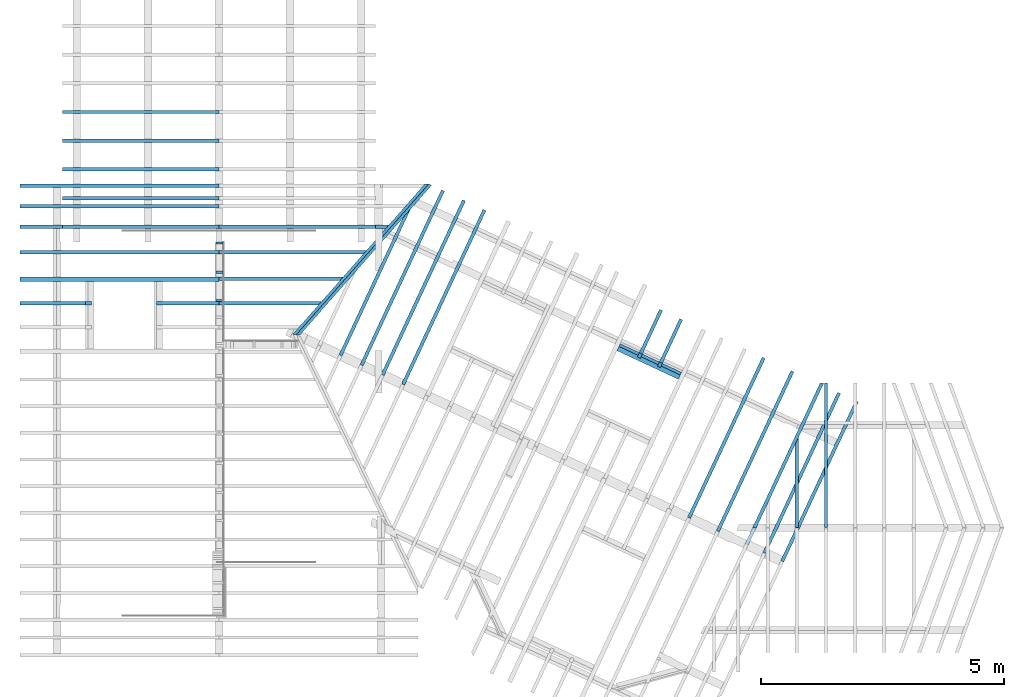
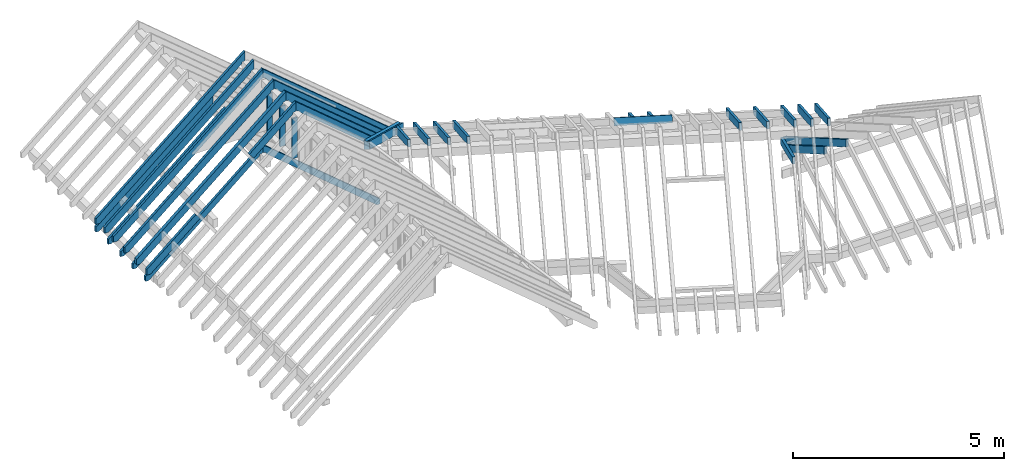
# One storey, part 5 of 11: 36 members.
"""IFC2X3 building model written with IfcOpenShell, lengths in metres."""

from ifc_helpers import new_model, si_unit, direction, frame, origin_with_axes, place, context, subcontext, project, spatial, faceted_brep, material, element, save


model = new_model("IFC2X3")

# Units and contexts
model_context = context("Model", 3, precision=1e-06, world=origin_with_axes(), true_north=direction((0.0, 1.0, 0.0)))
body_context = subcontext(model_context, "Body", "Model", "MODEL_VIEW")
ifc_project = project(units=[si_unit("LENGTHUNIT", "METRE"), si_unit("AREAUNIT", "SQUARE_METRE"), si_unit("VOLUMEUNIT", "CUBIC_METRE"), si_unit("PLANEANGLEUNIT", "RADIAN")], contexts=[model_context])

# Site, building, storey
site_placement = place(None, origin_with_axes())
site = spatial("IfcSite", under=ifc_project, at=site_placement, CompositionType="ELEMENT")
building_placement = place(site_placement, origin_with_axes())
building = spatial("IfcBuilding", under=site, at=building_placement, Name="Building 1", CompositionType="ELEMENT")
storey_placement = place(building_placement, origin_with_axes())
storey = spatial("IfcBuildingStorey", under=building, at=storey_placement, Name="Comble et couverture", CompositionType="ELEMENT", Elevation=0.0)

# Members
ifc_material_1 = material(Name="NH II")
member_1_placement = place(storey_placement, frame((3.294711, 6.4175905, 7.2275995), z_axis=(0.6427876, 0.0, 0.7660444), x_axis=(0.7660444, 0.0, -0.6427876)))
element("IfcMember", 1, at=member_1_placement, inside=storey, material=ifc_material_1, Name="Chevron", context=body_context, shape_type="Brep", body=[
    faceted_brep([(2.7435538, 0.035, 0.096), (2.663207, -0.035, 0.096), (2.8243141, -0.035, -0.096), (2.9046609, 0.035, -0.096), (0.0, -0.035, 0.096), (0.1611071, -0.035, -0.096), (0.2078259, -0.035, -0.096), (0.2397786, -0.035, -0.0691884), (0.2622762, -0.035, -0.096), (0.0, 0.035, 0.096), (0.2622762, 0.035, -0.096), (0.2397786, 0.035, -0.0691884), (0.2078259, 0.035, -0.096), (0.1611071, 0.035, -0.096)], [[[0, 1, 2, 3]], [[2, 1, 4, 5, 6, 7, 8]], [[1, 0, 9, 4]], [[0, 3, 10, 11, 12, 13, 9]], [[3, 2, 8, 10]], [[12, 11, 7, 6]], [[11, 10, 8, 7]], [[12, 6, 5, 13]], [[4, 9, 13, 5]]]),
])
member_2_placement = place(storey_placement, frame((3.3033887, 7.99, 5.0430385), z_axis=(0.6427876, 0.0, 0.7660444), x_axis=(0.7660444, 0.0, -0.6427876)))
element("IfcMember", 2, at=member_2_placement, inside=storey, material=ifc_material_1, Name="Chevron", context=body_context, shape_type="Brep", body=[
    faceted_brep([(0.0, 0.035, 0.0825), (0.0, -0.035, 0.0825), (4.1925587, -0.035, 0.0825), (4.1925587, 0.035, 0.0825), (0.2397267, -0.035, -0.0825), (0.2397267, 0.035, -0.0825), (4.2137207, 0.035, -0.0825), (4.2137207, -0.035, -0.0825), (0.1852763, -0.035, -0.0825), (0.2172291, -0.035, -0.0556884), (4.282549, -0.035, -0.0247462), (0.1384514, -0.035, -0.0825), (0.2172291, 0.035, -0.0556884), (0.1852763, 0.035, -0.0825), (0.1384514, 0.035, -0.0825), (4.282549, 0.035, -0.0247462)], [[[0, 1, 2, 3]], [[4, 5, 6, 7]], [[8, 9, 4, 7, 10, 2, 1, 11]], [[12, 13, 14, 0, 3, 15, 6, 5]], [[13, 12, 9, 8]], [[12, 5, 4, 9]], [[13, 8, 11, 14]], [[0, 14, 11, 1]], [[10, 15, 3, 2]], [[6, 15, 10, 7]]]),
])
member_3_placement = place(storey_placement, frame((14.9022096, 1.0777678, 5.8872838), z_axis=(0.2113091, 0.4531539, 0.8660254), x_axis=(0.3659982, 0.7848856, -0.5)))
element("IfcMember", 3, at=member_3_placement, inside=storey, material=ifc_material_1, Name="Chevron", context=body_context, shape_type="Brep", body=[
    faceted_brep([(0.0, 0.035, 0.096), (0.0, -0.035, 0.096), (4.1838816, -0.035, 0.096), (4.1838816, 0.035, 0.096), (0.2227742, 0.035, -0.096), (0.2045007, 0.035, -0.0643494), (0.1496801, 0.035, -0.096), (0.1108513, 0.035, -0.096), (4.2639363, 0.035, -0.0426587), (4.1715464, 0.035, -0.096), (0.2227742, -0.035, -0.096), (4.1715464, -0.035, -0.096), (0.2045007, -0.035, -0.0643494), (4.2639363, -0.035, -0.0426587), (0.1108513, -0.035, -0.096), (0.1496801, -0.035, -0.096)], [[[0, 1, 2, 3]], [[4, 5, 6, 7, 0, 3, 8, 9]], [[10, 4, 9, 11]], [[12, 10, 11, 13, 2, 1, 14, 15]], [[10, 12, 5, 4]], [[12, 15, 6, 5]], [[6, 15, 14, 7]], [[14, 1, 0, 7]], [[13, 8, 3, 2]], [[8, 13, 11, 9]]]),
])
ifc_material_2 = material(Name="Epicéa C24")
member_4_placement = place(storey_placement, frame((3.3635, 7.6535, 6.7854713), z_axis=(1.0, 0.0, 0.0), x_axis=(0.0, 0.0, -1.0)))
element("IfcMember", 4, at=member_4_placement, inside=storey, material=ifc_material_2, Name="Montant", context=body_context, shape_type="Brep", body=[
    faceted_brep([(1.16, -0.0225, -0.0725), (1.16, 0.0225, -0.0725), (1.16, 0.0225, 0.0725), (1.16, -0.0225, 0.0725), (0.0, 0.0225, -0.0725), (0.0, 0.0225, 0.0725), (0.0, -0.0225, -0.0725), (0.0, -0.0225, 0.0725)], [[[0, 1, 2, 3]], [[2, 1, 4, 5]], [[1, 0, 6, 4]], [[0, 3, 7, 6]], [[3, 2, 5, 7]], [[7, 5, 4, 6]]]),
])
member_5_placement = place(storey_placement, frame((14.3295766, 1.7640094, 4.5601278), z_axis=(0.1959355, 0.420185, 0.8860327), x_axis=(0.3744536, 0.8030183, -0.4636228)))
element("IfcMember", 5, at=member_5_placement, inside=storey, material=ifc_material_1, Name="Chevron", context=body_context, shape_type="Brep", body=[
    faceted_brep([(3.7863754, -0.035, -0.0280447), (3.757454, 0.035, -0.043178), (3.6925467, 0.035, 0.0808667), (3.7214682, -0.035, 0.096), (3.6565055, 0.035, -0.096), (2.8097948, 0.035, -0.096), (2.8062637, 0.035, -0.0892516), (2.7933668, 0.035, -0.096), (0.1884349, 0.035, -0.096), (0.1849037, 0.035, -0.0892516), (0.1720069, 0.035, -0.096), (0.0925467, 0.035, -0.096), (0.0, 0.035, 0.0808666), (3.6565055, -0.035, -0.096), (0.0289215, -0.035, 0.096), (0.1293868, -0.035, -0.096), (0.1720069, -0.035, -0.096), (0.2138252, -0.035, -0.0741183), (0.225275, -0.035, -0.096), (2.7933668, -0.035, -0.096), (2.8351852, -0.035, -0.0741183), (2.8466349, -0.035, -0.096)], [[[0, 1, 2, 3]], [[2, 1, 4, 5, 6, 7, 8, 9, 10, 11, 12]], [[1, 0, 13, 4]], [[3, 2, 12, 14]], [[0, 3, 14, 15, 16, 17, 18, 19, 20, 21, 13]], [[4, 13, 21, 5]], [[7, 6, 20, 19]], [[6, 5, 21, 20]], [[7, 19, 18, 8]], [[11, 15, 14, 12]], [[15, 11, 10, 16]], [[18, 17, 9, 8]], [[17, 16, 10, 9]]]),
])
member_6_placement = place(storey_placement, frame((3.294711, 7.4657952, 7.2275995), z_axis=(0.6427876, 0.0, 0.7660444), x_axis=(0.7660444, 0.0, -0.6427876)))
element("IfcMember", 6, at=member_6_placement, inside=storey, material=ifc_material_1, Name="Chevron", context=body_context, shape_type="Brep", body=[
    faceted_brep([(0.2078259, 0.035, -0.096), (0.2397786, 0.035, -0.0691884), (0.2397786, -0.035, -0.0691884), (0.2078259, -0.035, -0.096), (0.2622762, 0.035, -0.096), (0.2622762, -0.035, -0.096), (4.0274555, -0.035, -0.096), (3.8663484, -0.035, 0.096), (0.0, -0.035, 0.096), (0.1611071, -0.035, -0.096), (4.1078023, 0.035, -0.096), (0.1611071, 0.035, -0.096), (3.9466952, 0.035, 0.096), (0.0, 0.035, 0.096)], [[[0, 1, 2, 3]], [[1, 4, 5, 2]], [[3, 2, 5, 6, 7, 8, 9]], [[5, 4, 10, 6]], [[0, 3, 9, 11]], [[6, 10, 12, 7]], [[1, 0, 11, 13, 12, 10, 4]], [[7, 12, 13, 8]], [[8, 13, 11, 9]]]),
])
member_7_placement = place(storey_placement, frame((14.5356195, 1.2487413, 5.8873141), z_axis=(0.2113091, 0.4531539, 0.8660254), x_axis=(0.3659982, 0.7848856, -0.5)))
element("IfcMember", 7, at=member_7_placement, inside=storey, material=ifc_material_1, Name="Chevron", context=body_context, shape_type="Brep", body=[
    faceted_brep([(0.0, 0.035, 0.096), (0.0, -0.035, 0.096), (4.1838816, -0.035, 0.096), (4.1838816, 0.035, 0.096), (0.2227742, 0.035, -0.096), (0.2045007, 0.035, -0.0643494), (0.1497407, 0.035, -0.096), (0.1108513, 0.035, -0.096), (4.2639363, 0.035, -0.0426587), (4.1715464, 0.035, -0.096), (0.2227742, -0.035, -0.096), (4.1715464, -0.035, -0.096), (0.2045007, -0.035, -0.0643494), (4.2639363, -0.035, -0.0426587), (0.1108513, -0.035, -0.096), (0.1497407, -0.035, -0.096)], [[[0, 1, 2, 3]], [[4, 5, 6, 7, 0, 3, 8, 9]], [[10, 4, 9, 11]], [[12, 10, 11, 13, 2, 1, 14, 15]], [[10, 12, 5, 4]], [[12, 15, 6, 5]], [[6, 15, 14, 7]], [[14, 1, 0, 7]], [[13, 8, 3, 2]], [[8, 13, 11, 9]]]),
])
member_8_placement = place(storey_placement, frame((15.219553, 3.7128106, 3.4239438), z_axis=(0.0, 0.5, 0.8660254), x_axis=(0.0, -0.8660254, 0.5)))
element("IfcMember", 8, at=member_8_placement, inside=storey, material=ifc_material_1, Name="Chevron", context=body_context, shape_type="Brep", body=[
    faceted_brep([(2.1385408, 0.035, -0.096), (2.249392, 0.035, 0.096), (2.249392, -0.035, 0.096), (2.1385408, -0.035, -0.096), (0.1108513, 0.035, 0.096), (0.2841897, -0.035, 0.096), (2.0890339, 0.035, -0.096), (2.0594801, 0.035, -0.0789371), (2.0496289, 0.035, -0.096), (0.0, 0.035, -0.096), (2.0890339, -0.035, -0.096), (2.0594801, -0.035, -0.0789371), (2.0496289, -0.035, -0.096), (0.1733384, -0.035, -0.096)], [[[0, 1, 2, 3]], [[2, 1, 4, 5]], [[1, 0, 6, 7, 8, 9, 4]], [[10, 11, 7, 6]], [[11, 12, 8, 7]], [[8, 12, 13, 9]], [[0, 3, 10, 6]], [[13, 5, 4, 9]], [[3, 2, 5, 13, 12, 11, 10]]]),
])
for number, where, z_axis, x_axis, name in (
    (9, (3.4131263, 8.4115626, 7.2275995), (-0.6427876, 0.0, 0.7660444), (-0.7660444, 0.0, -0.6427876), "Chevron"),
    (10, (3.4131263, 7.4657952, 7.2275995), (-0.6427876, 0.0, 0.7660444), (-0.7660444, 0.0, -0.6427876), "Chevron"),
):
    element("IfcMember", number, at=place(storey_placement, frame(where, z_axis=z_axis, x_axis=x_axis)), inside=storey, material=ifc_material_1, Name=name, context=body_context, shape_type="Brep", body=[
        faceted_brep([(5.4354375, -0.035, -0.0265671), (5.4354375, 0.035, -0.0265671), (5.3325915, 0.035, 0.096), (5.3325915, -0.035, 0.096), (5.3526906, 0.035, -0.096), (0.2622762, 0.035, -0.096), (0.2397786, 0.035, -0.0691884), (0.2078259, 0.035, -0.096), (0.1611071, 0.035, -0.096), (0.0, 0.035, 0.096), (5.3526906, -0.035, -0.096), (0.2622762, -0.035, -0.096), (0.0, -0.035, 0.096), (0.1611071, -0.035, -0.096), (0.2078259, -0.035, -0.096), (0.2397786, -0.035, -0.0691884)], [[[0, 1, 2, 3]], [[2, 1, 4, 5, 6, 7, 8, 9]], [[1, 0, 10, 4]], [[4, 10, 11, 5]], [[0, 3, 12, 13, 14, 15, 11, 10]], [[3, 2, 9, 12]], [[7, 6, 15, 14]], [[6, 5, 11, 15]], [[7, 14, 13, 8]], [[13, 12, 9, 8]]]),
    ])
member_9_placement = place(storey_placement, frame((12.9883897, 1.9701967, 5.8873443), z_axis=(0.2113091, 0.4531539, 0.8660254), x_axis=(0.3659982, 0.7848856, -0.5)))
element("IfcMember", 11, at=member_9_placement, inside=storey, material=ifc_material_1, Name="Chevron", context=body_context, shape_type="Brep", body=[
    faceted_brep([(0.0, 0.035, 0.096), (0.0, -0.035, 0.096), (4.1839024, -0.035, 0.096), (4.1839024, 0.035, 0.096), (0.2227223, 0.035, -0.096), (0.2045309, 0.035, -0.0644018), (0.1498012, 0.035, -0.096), (0.1108513, 0.035, -0.096), (4.2639665, 0.035, -0.0426752), (4.1716052, 0.035, -0.096), (0.2227223, -0.035, -0.096), (4.1716052, -0.035, -0.096), (0.2045309, -0.035, -0.0644018), (4.2639665, -0.035, -0.0426752), (0.1108513, -0.035, -0.096), (0.1498012, -0.035, -0.096)], [[[0, 1, 2, 3]], [[4, 5, 6, 7, 0, 3, 8, 9]], [[10, 4, 9, 11]], [[12, 10, 11, 13, 2, 1, 14, 15]], [[10, 12, 5, 4]], [[12, 15, 6, 5]], [[6, 15, 14, 7]], [[14, 1, 0, 7]], [[13, 8, 3, 2]], [[8, 13, 11, 9]]]),
])
member_10_placement = place(storey_placement, frame((11.5596271, 5.5157952, 4.3806407), z_axis=(0.2113091, 0.4531539, 0.8660254), x_axis=(0.9063078, -0.4226183, 0.0)))
element("IfcMember", 12, at=member_10_placement, inside=storey, material=ifc_material_1, Name="Chevetre", context=body_context, shape_type="Brep", body=[
    faceted_brep([(0.0, 0.035, -0.096), (0.0, -0.035, -0.096), (0.0, -0.035, 0.096), (0.0, 0.035, 0.096), (1.39, -0.035, -0.096), (1.39, -0.035, 0.096), (1.39, 0.035, -0.096), (1.39, 0.035, 0.096)], [[[0, 1, 2, 3]], [[2, 1, 4, 5]], [[1, 0, 6, 4]], [[6, 7, 5, 4]], [[3, 2, 5, 7]], [[0, 3, 7, 6]]]),
])
member_11_placement = place(storey_placement, frame((7.1152034, 4.7089084, 5.8873226), z_axis=(0.2113091, 0.4531539, 0.8660254), x_axis=(0.3659982, 0.7848856, -0.5)))
element("IfcMember", 13, at=member_11_placement, inside=storey, material=ifc_material_1, Name="Chevron", context=body_context, shape_type="Brep", body=[
    faceted_brep([(0.0, 0.035, 0.096), (0.0, -0.035, 0.096), (4.5639313, -0.035, 0.096), (4.5639313, 0.035, 0.096), (0.2227742, 0.035, -0.096), (0.2045007, 0.035, -0.0643494), (0.1497407, 0.035, -0.096), (0.1108513, 0.035, -0.096), (4.643901, 0.035, -0.0425116), (4.5512564, 0.035, -0.096), (0.2227742, -0.035, -0.096), (4.5512564, -0.035, -0.096), (0.2045007, -0.035, -0.0643494), (4.643901, -0.035, -0.0425116), (0.1108513, -0.035, -0.096), (0.1497407, -0.035, -0.096)], [[[0, 1, 2, 3]], [[4, 5, 6, 7, 0, 3, 8, 9]], [[10, 4, 9, 11]], [[12, 10, 11, 13, 2, 1, 14, 15]], [[6, 5, 12, 15]], [[5, 4, 10, 12]], [[6, 15, 14, 7]], [[7, 14, 1, 0]], [[13, 8, 3, 2]], [[13, 11, 9, 8]]]),
])
member_12_placement = place(storey_placement, frame((3.4131263, 8.8331251, 7.2275995), z_axis=(-0.6427876, 0.0, 0.7660444), x_axis=(-0.7660444, 0.0, -0.6427876)))
element("IfcMember", 14, at=member_12_placement, inside=storey, material=ifc_material_1, Name="Chevron", context=body_context, shape_type="Brep", body=[
    faceted_brep([(5.4354375, -0.035, -0.0265671), (5.4354375, 0.035, -0.0265671), (5.3325915, 0.035, 0.096), (5.3325915, -0.035, 0.096), (5.3526906, 0.035, -0.096), (0.2622762, 0.035, -0.096), (0.2397786, 0.035, -0.0691884), (0.2078259, 0.035, -0.096), (0.1611071, 0.035, -0.096), (0.0, 0.035, 0.096), (5.3526906, -0.035, -0.096), (0.2622762, -0.035, -0.096), (0.0, -0.035, 0.096), (0.1611071, -0.035, -0.096), (0.2078259, -0.035, -0.096), (0.2397786, -0.035, -0.0691884)], [[[0, 1, 2, 3]], [[2, 1, 4, 5, 6, 7, 8, 9]], [[1, 0, 10, 4]], [[4, 10, 11, 5]], [[0, 3, 12, 13, 14, 15, 11, 10]], [[3, 2, 9, 12]], [[7, 6, 15, 14]], [[6, 5, 11, 15]], [[7, 14, 13, 8]], [[13, 12, 9, 8]]]),
])
member_13_placement = place(storey_placement, frame((4.8754882, 5.6991173, 5.9271092), z_axis=(0.3200264, 0.3639665, 0.8747065), x_axis=(0.5775869, 0.6568903, -0.484653)))
element("IfcMember", 15, at=member_13_placement, inside=storey, material=ifc_material_1, Name="Noue", context=body_context, shape_type="Brep", body=[
    faceted_brep([(4.7760926, 0.0, 0.0869282), (4.8535496, 0.0, -0.0528669), (4.8074031, 0.06, -0.0784355), (4.697455, 0.06, 0.12), (4.8689207, -0.06, -0.0443501), (4.7323871, -0.06, -0.12), (4.7323871, 0.06, -0.12), (4.7914637, -0.06, 0.095445), (0.0, 0.06, 0.12), (0.0638209, 0.0, 0.0869282), (4.4239764, 0.06, -0.12), (4.4070949, 0.06, -0.0895322), (4.3521063, 0.06, -0.12), (3.4373492, 0.06, -0.12), (3.4204678, 0.06, -0.0895322), (3.3654792, 0.06, -0.12), (3.3223986, 0.06, -0.12), (3.2937455, 0.06, -0.0682866), (3.2004126, 0.06, -0.12), (0.2775504, 0.06, -0.12), (0.2670448, 0.06, -0.1010394), (0.2328245, 0.06, -0.12), (0.132978, 0.06, -0.12), (0.1045986, -0.06, 0.095445), (0.2239713, -0.06, -0.12), (0.2328245, -0.06, -0.12), (0.297787, -0.06, -0.0840059), (0.3177305, -0.06, -0.12), (3.3654792, -0.06, -0.12), (3.45121, -0.06, -0.0724987), (3.4775293, -0.06, -0.12), (4.3521063, -0.06, -0.12), (4.4378372, -0.06, -0.0724987), (4.4641565, -0.06, -0.12), (3.2004126, -0.0338203, -0.12)], [[[0, 1, 2, 3]], [[2, 1, 4, 5, 6]], [[1, 0, 7, 4]], [[0, 3, 8, 9]], [[3, 2, 6, 10, 11, 12, 13, 14, 15, 16, 17, 18, 19, 20, 21, 22, 8]], [[7, 0, 9, 23]], [[4, 7, 23, 24, 25, 26, 27, 28, 29, 30, 31, 32, 33, 5]], [[27, 26, 20, 19]], [[26, 25, 21, 20]], [[21, 25, 24, 22]], [[27, 19, 18, 34, 16, 15, 28]], [[33, 32, 11, 10]], [[32, 31, 12, 11]], [[12, 31, 30, 13]], [[18, 17, 34]], [[17, 16, 34]], [[15, 14, 29, 28]], [[14, 13, 30, 29]], [[24, 23, 9, 8, 22]], [[6, 5, 33, 10]]]),
])
member_14_placement = place(storey_placement, frame((7.2776213, 8.4115008, 3.9102756), z_axis=(0.2113091, 0.4531539, 0.8660254), x_axis=(-0.3659982, -0.7848856, 0.5)))
element("IfcMember", 16, at=member_14_placement, inside=storey, material=ifc_material_1, Name="Chevron", context=body_context, shape_type="Brep", body=[
    faceted_brep([(0.3868297, -0.035, 0.096), (0.1108513, 0.035, 0.096), (0.0, 0.035, -0.096), (0.2759784, -0.035, -0.096), (3.9540746, 0.035, 0.096), (3.8432234, 0.035, -0.096), (3.8043364, 0.035, -0.096), (3.7495594, 0.035, -0.0643745), (3.7313005, 0.035, -0.096), (3.9540746, -0.035, 0.096), (3.7313005, -0.035, -0.096), (3.7495594, -0.035, -0.0643745), (3.8043364, -0.035, -0.096), (3.8432234, -0.035, -0.096)], [[[0, 1, 2, 3]], [[2, 1, 4, 5, 6, 7, 8]], [[1, 0, 9, 4]], [[0, 3, 10, 11, 12, 13, 9]], [[3, 2, 8, 10]], [[12, 11, 7, 6]], [[11, 10, 8, 7]], [[12, 6, 5, 13]], [[13, 5, 4, 9]]]),
])
member_15_placement = place(storey_placement, frame((3.4131263, 6.4175905, 7.2275995), z_axis=(-0.6427876, 0.0, 0.7660444), x_axis=(-0.7660444, 0.0, -0.6427876)))
element("IfcMember", 17, at=member_15_placement, inside=storey, material=ifc_material_1, Name="Chevron", context=body_context, shape_type="Brep", body=[
    faceted_brep([(0.2622762, -0.035, -0.096), (0.2622762, 0.035, -0.096), (1.6699356, 0.035, -0.096), (1.6699356, -0.035, -0.096), (0.2078259, -0.035, -0.096), (0.2397786, -0.035, -0.0691884), (1.6699356, -0.035, 0.096), (0.0, -0.035, 0.096), (0.1611071, -0.035, -0.096), (0.0, 0.035, 0.096), (1.6699356, 0.035, 0.096), (0.2397786, 0.035, -0.0691884), (0.2078259, 0.035, -0.096), (0.1611071, 0.035, -0.096)], [[[0, 1, 2, 3]], [[4, 5, 0, 3, 6, 7, 8]], [[9, 7, 6, 10]], [[11, 12, 13, 9, 10, 2, 1]], [[12, 11, 5, 4]], [[11, 1, 0, 5]], [[12, 4, 8, 13]], [[7, 9, 13, 8]], [[2, 10, 6, 3]]]),
])
member_16_placement = place(storey_placement, frame((3.3635, 7.0535, 6.7854713), z_axis=(1.0, 0.0, 0.0), x_axis=(0.0, 0.0, -1.0)))
element("IfcMember", 18, at=member_16_placement, inside=storey, material=ifc_material_2, Name="Montant", context=body_context, shape_type="Brep", body=[
    faceted_brep([(1.16, -0.0225, -0.0725), (1.16, 0.0225, -0.0725), (1.16, 0.0225, 0.0725), (1.16, -0.0225, 0.0725), (0.0, 0.0225, -0.0725), (0.0, 0.0225, 0.0725), (0.0, -0.0225, -0.0725), (0.0, -0.0225, 0.0725)], [[[0, 1, 2, 3]], [[2, 1, 4, 5]], [[1, 0, 6, 4]], [[0, 3, 7, 6]], [[3, 2, 5, 7]], [[7, 5, 4, 6]]]),
])
member_17_placement = place(storey_placement, frame((6.2621966, 5.106672, 5.8873129), z_axis=(0.2113091, 0.4531539, 0.8660254), x_axis=(0.3659982, 0.7848856, -0.5)))
element("IfcMember", 19, at=member_17_placement, inside=storey, material=ifc_material_1, Name="Chevron", context=body_context, shape_type="Brep", body=[
    faceted_brep([(0.0, 0.035, 0.096), (0.0, -0.035, 0.096), (4.5639313, -0.035, 0.096), (4.5639313, 0.035, 0.096), (0.2227742, 0.035, -0.096), (0.2045007, 0.035, -0.0643494), (0.1497407, 0.035, -0.096), (0.1108513, 0.035, -0.096), (4.6438538, 0.035, -0.0425641), (4.5512564, 0.035, -0.096), (0.2227742, -0.035, -0.096), (4.5512564, -0.035, -0.096), (0.2045007, -0.035, -0.0643494), (4.6438538, -0.035, -0.0425641), (0.1108513, -0.035, -0.096), (0.1497407, -0.035, -0.096)], [[[0, 1, 2, 3]], [[4, 5, 6, 7, 0, 3, 8, 9]], [[10, 4, 9, 11]], [[12, 10, 11, 13, 2, 1, 14, 15]], [[6, 5, 12, 15]], [[5, 4, 10, 12]], [[6, 15, 14, 7]], [[7, 14, 1, 0]], [[13, 8, 3, 2]], [[13, 11, 9, 8]]]),
])
member_18_placement = place(storey_placement, frame((3.4044486, 9.75685, 5.042902), z_axis=(-0.6427876, 0.0, 0.7660444), x_axis=(-0.7660444, 0.0, -0.6427876)))
element("IfcMember", 20, at=member_18_placement, inside=storey, material=ifc_material_1, Name="Chevron", context=body_context, shape_type="Brep", body=[
    faceted_brep([(4.2823188, 0.035, -0.0247612), (4.2823188, -0.035, -0.0247612), (4.2135084, -0.035, -0.0825), (4.2135084, 0.035, -0.0825), (4.1923159, -0.035, 0.0825), (0.0, -0.035, 0.0825), (0.1384514, -0.035, -0.0825), (0.185064, -0.035, -0.0825), (0.2170168, -0.035, -0.0556884), (0.2395143, -0.035, -0.0825), (4.1923159, 0.035, 0.0825), (0.2395143, 0.035, -0.0825), (0.2170168, 0.035, -0.0556884), (0.185064, 0.035, -0.0825), (0.1384514, 0.035, -0.0825), (0.0, 0.035, 0.0825)], [[[0, 1, 2, 3]], [[2, 1, 4, 5, 6, 7, 8, 9]], [[1, 0, 10, 4]], [[0, 3, 11, 12, 13, 14, 15, 10]], [[9, 8, 12, 11]], [[8, 7, 13, 12]], [[13, 7, 6, 14]], [[3, 2, 9, 11]], [[15, 14, 6, 5]], [[4, 10, 15, 5]]]),
])
member_19_placement = place(storey_placement, frame((6.6939558, 4.9053394, 5.8873226), z_axis=(0.2113091, 0.4531539, 0.8660254), x_axis=(0.3659982, 0.7848856, -0.5)))
element("IfcMember", 21, at=member_19_placement, inside=storey, material=ifc_material_1, Name="Chevron", context=body_context, shape_type="Brep", body=[
    faceted_brep([(0.0, 0.035, 0.096), (0.0, -0.035, 0.096), (4.5639313, -0.035, 0.096), (4.5639313, 0.035, 0.096), (0.2227742, 0.035, -0.096), (0.2045007, 0.035, -0.0643494), (0.1497407, 0.035, -0.096), (0.1108513, 0.035, -0.096), (4.643901, 0.035, -0.0425116), (4.5512564, 0.035, -0.096), (0.2227742, -0.035, -0.096), (4.5512564, -0.035, -0.096), (0.2045007, -0.035, -0.0643494), (4.643901, -0.035, -0.0425116), (0.1108513, -0.035, -0.096), (0.1497407, -0.035, -0.096)], [[[0, 1, 2, 3]], [[4, 5, 6, 7, 0, 3, 8, 9]], [[10, 4, 9, 11]], [[12, 10, 11, 13, 2, 1, 14, 15]], [[6, 5, 12, 15]], [[5, 4, 10, 12]], [[6, 15, 14, 7]], [[7, 14, 1, 0]], [[13, 8, 3, 2]], [[13, 11, 9, 8]]]),
])
member_20_placement = place(storey_placement, frame((11.9965926, 5.3454883, 4.3631861), z_axis=(0.2113091, 0.4531539, 0.8660254), x_axis=(0.3659982, 0.7848856, -0.5)))
element("IfcMember", 22, at=member_20_placement, inside=storey, material=ifc_material_1, Name="Chevron", context=body_context, shape_type="Brep", body=[
    faceted_brep([(0.0, -0.035, -0.096), (0.0, -0.035, 0.096), (0.0, 0.035, 0.096), (0.0, 0.035, -0.096), (1.1355859, -0.035, 0.096), (1.1355859, 0.035, 0.096), (1.1232887, -0.035, -0.096), (1.2156501, -0.035, -0.0426752), (1.1232887, 0.035, -0.096), (1.2156501, 0.035, -0.0426752)], [[[0, 1, 2, 3]], [[2, 1, 4, 5]], [[1, 0, 6, 7, 4]], [[0, 3, 8, 6]], [[3, 2, 5, 9, 8]], [[7, 9, 5, 4]], [[9, 7, 6, 8]]]),
])
member_21_placement = place(storey_placement, frame((3.4044486, 7.99, 5.042902), z_axis=(-0.6427876, 0.0, 0.7660444), x_axis=(-0.7660444, 0.0, -0.6427876)))
element("IfcMember", 23, at=member_21_placement, inside=storey, material=ifc_material_1, Name="Chevron", context=body_context, shape_type="Brep", body=[
    faceted_brep([(4.2823188, 0.035, -0.0247612), (4.2823188, -0.035, -0.0247612), (4.2135084, -0.035, -0.0825), (4.2135084, 0.035, -0.0825), (4.1923159, -0.035, 0.0825), (0.0, -0.035, 0.0825), (0.1384514, -0.035, -0.0825), (0.185064, -0.035, -0.0825), (0.2170168, -0.035, -0.0556884), (0.2395143, -0.035, -0.0825), (4.1923159, 0.035, 0.0825), (0.2395143, 0.035, -0.0825), (0.2170168, 0.035, -0.0556884), (0.185064, 0.035, -0.0825), (0.1384514, 0.035, -0.0825), (0.0, 0.035, 0.0825)], [[[0, 1, 2, 3]], [[2, 1, 4, 5, 6, 7, 8, 9]], [[1, 0, 10, 4]], [[0, 3, 11, 12, 13, 14, 15, 10]], [[9, 8, 12, 11]], [[8, 7, 13, 12]], [[13, 7, 6, 14]], [[3, 2, 9, 11]], [[15, 14, 6, 5]], [[4, 10, 15, 5]]]),
])
member_22_placement = place(storey_placement, frame((3.3635, 6.478, 6.7854713), z_axis=(1.0, 0.0, 0.0), x_axis=(0.0, 0.0, -1.0)))
element("IfcMember", 24, at=member_22_placement, inside=storey, material=ifc_material_2, Name="Montant", context=body_context, shape_type="Brep", body=[
    faceted_brep([(1.16, -0.0225, -0.0725), (1.16, 0.0225, -0.0725), (1.16, 0.0225, 0.0725), (1.16, -0.0225, 0.0725), (0.0, 0.0225, -0.0725), (0.0, 0.0225, 0.0725), (0.0, -0.0225, -0.0725), (0.0, -0.0225, 0.0725)], [[[0, 1, 2, 3]], [[2, 1, 4, 5]], [[1, 0, 6, 4]], [[0, 3, 7, 6]], [[3, 2, 5, 7]], [[7, 5, 4, 6]]]),
])
member_23_placement = place(storey_placement, frame((3.4044486, 8.57895, 5.042902), z_axis=(-0.6427876, 0.0, 0.7660444), x_axis=(-0.7660444, 0.0, -0.6427876)))
element("IfcMember", 25, at=member_23_placement, inside=storey, material=ifc_material_1, Name="Chevron", context=body_context, shape_type="Brep", body=[
    faceted_brep([(4.2823188, 0.035, -0.0247612), (4.2823188, -0.035, -0.0247612), (4.2135084, -0.035, -0.0825), (4.2135084, 0.035, -0.0825), (4.1923159, -0.035, 0.0825), (0.0, -0.035, 0.0825), (0.1384514, -0.035, -0.0825), (0.185064, -0.035, -0.0825), (0.2170168, -0.035, -0.0556884), (0.2395143, -0.035, -0.0825), (4.1923159, 0.035, 0.0825), (0.2395143, 0.035, -0.0825), (0.2170168, 0.035, -0.0556884), (0.185064, 0.035, -0.0825), (0.1384514, 0.035, -0.0825), (0.0, 0.035, 0.0825)], [[[0, 1, 2, 3]], [[2, 1, 4, 5, 6, 7, 8, 9]], [[1, 0, 10, 4]], [[0, 3, 11, 12, 13, 14, 15, 10]], [[9, 8, 12, 11]], [[8, 7, 13, 12]], [[13, 7, 6, 14]], [[3, 2, 9, 11]], [[15, 14, 6, 5]], [[4, 10, 15, 5]]]),
])
member_24_placement = place(storey_placement, frame((15.819553, 1.76478, 4.5486398), z_axis=(0.0, 0.5, 0.8660254), x_axis=(0.0, 0.8660254, -0.5)))
element("IfcMember", 26, at=member_24_placement, inside=storey, material=ifc_material_1, Name="Chevron", context=body_context, shape_type="Brep", body=[
    faceted_brep([(0.0, 0.035, 0.096), (0.0, -0.035, 0.096), (3.4238981, -0.035, 0.096), (3.4238981, 0.035, 0.096), (0.1108513, -0.035, -0.096), (0.1603581, -0.035, -0.096), (0.1899119, -0.035, -0.0789371), (0.1997631, -0.035, -0.096), (3.3713443, -0.035, -0.096), (3.4938981, -0.035, -0.0252436), (0.1108513, 0.035, -0.096), (3.4938981, 0.035, -0.0252436), (3.3713443, 0.035, -0.096), (0.1997631, 0.035, -0.096), (0.1899119, 0.035, -0.0789371), (0.1603581, 0.035, -0.096)], [[[0, 1, 2, 3]], [[1, 4, 5, 6, 7, 8, 9, 2]], [[10, 0, 3, 11, 12, 13, 14, 15]], [[7, 13, 12, 8]], [[4, 1, 0, 10]], [[15, 14, 6, 5]], [[14, 13, 7, 6]], [[4, 10, 15, 5]], [[9, 11, 3, 2]], [[8, 12, 11, 9]]]),
])
member_25_placement = place(storey_placement, frame((13.5786982, 1.6949313, 5.8873443), z_axis=(0.2113091, 0.4531539, 0.8660254), x_axis=(0.3659982, 0.7848856, -0.5)))
element("IfcMember", 27, at=member_25_placement, inside=storey, material=ifc_material_1, Name="Chevron", context=body_context, shape_type="Brep", body=[
    faceted_brep([(0.0, 0.035, 0.096), (0.0, -0.035, 0.096), (4.1839024, -0.035, 0.096), (4.1839024, 0.035, 0.096), (0.2227223, 0.035, -0.096), (0.2045309, 0.035, -0.0644018), (0.1498012, 0.035, -0.096), (0.1108513, 0.035, -0.096), (4.2639665, 0.035, -0.0426752), (4.1716052, 0.035, -0.096), (0.2227223, -0.035, -0.096), (4.1716052, -0.035, -0.096), (0.2045309, -0.035, -0.0644018), (4.2639665, -0.035, -0.0426752), (0.1108513, -0.035, -0.096), (0.1498012, -0.035, -0.096)], [[[0, 1, 2, 3]], [[4, 5, 6, 7, 0, 3, 8, 9]], [[10, 4, 9, 11]], [[12, 10, 11, 13, 2, 1, 14, 15]], [[10, 12, 5, 4]], [[12, 15, 6, 5]], [[6, 15, 14, 7]], [[14, 1, 0, 7]], [[13, 8, 3, 2]], [[8, 13, 11, 9]]]),
])
member_26_placement = place(storey_placement, frame((3.4044486, 10.3458, 5.042902), z_axis=(-0.6427876, 0.0, 0.7660444), x_axis=(-0.7660444, 0.0, -0.6427876)))
element("IfcMember", 28, at=member_26_placement, inside=storey, material=ifc_material_1, Name="Chevron", context=body_context, shape_type="Brep", body=[
    faceted_brep([(4.2823188, 0.035, -0.0247612), (4.2823188, -0.035, -0.0247612), (4.2135084, -0.035, -0.0825), (4.2135084, 0.035, -0.0825), (4.1923159, -0.035, 0.0825), (0.0, -0.035, 0.0825), (0.1384514, -0.035, -0.0825), (0.185064, -0.035, -0.0825), (0.2170168, -0.035, -0.0556884), (0.2395143, -0.035, -0.0825), (4.1923159, 0.035, 0.0825), (0.2395143, 0.035, -0.0825), (0.2170168, 0.035, -0.0556884), (0.185064, 0.035, -0.0825), (0.1384514, 0.035, -0.0825), (0.0, 0.035, 0.0825)], [[[0, 1, 2, 3]], [[2, 1, 4, 5, 6, 7, 8, 9]], [[1, 0, 10, 4]], [[0, 3, 11, 12, 13, 14, 15, 10]], [[9, 8, 12, 11]], [[8, 7, 13, 12]], [[13, 7, 6, 14]], [[3, 2, 9, 11]], [[15, 14, 6, 5]], [[4, 10, 15, 5]]]),
])
member_27_placement = place(storey_placement, frame((3.4131263, 7.99, 7.2275995), z_axis=(-0.6427876, 0.0, 0.7660444), x_axis=(-0.7660444, 0.0, -0.6427876)))
element("IfcMember", 29, at=member_27_placement, inside=storey, material=ifc_material_1, Name="Chevron", context=body_context, shape_type="Brep", body=[
    faceted_brep([(5.4354375, -0.035, -0.0265671), (5.4354375, 0.035, -0.0265671), (5.3325915, 0.035, 0.096), (5.3325915, -0.035, 0.096), (5.3526906, 0.035, -0.096), (0.2622762, 0.035, -0.096), (0.2397786, 0.035, -0.0691884), (0.2078259, 0.035, -0.096), (0.1611071, 0.035, -0.096), (0.0, 0.035, 0.096), (5.3526906, -0.035, -0.096), (0.2622762, -0.035, -0.096), (0.0, -0.035, 0.096), (0.1611071, -0.035, -0.096), (0.2078259, -0.035, -0.096), (0.2397786, -0.035, -0.0691884)], [[[0, 1, 2, 3]], [[2, 1, 4, 5, 6, 7, 8, 9]], [[1, 0, 10, 4]], [[4, 10, 11, 5]], [[0, 3, 12, 13, 14, 15, 11, 10]], [[3, 2, 9, 12]], [[7, 6, 15, 14]], [[6, 5, 11, 15]], [[7, 14, 13, 8]], [[13, 12, 9, 8]]]),
])
member_28_placement = place(storey_placement, frame((3.294711, 7.99, 7.2275995), z_axis=(0.6427876, 0.0, 0.7660444), x_axis=(0.7660444, 0.0, -0.6427876)))
element("IfcMember", 30, at=member_28_placement, inside=storey, material=ifc_material_1, Name="Chevron", context=body_context, shape_type="Brep", body=[
    faceted_brep([(0.2078259, 0.035, -0.096), (0.2397786, 0.035, -0.0691884), (0.2397786, -0.035, -0.0691884), (0.2078259, -0.035, -0.096), (0.2622762, 0.035, -0.096), (0.2622762, -0.035, -0.096), (4.6291437, -0.035, -0.096), (4.4680366, -0.035, 0.096), (0.0, -0.035, 0.096), (0.1611071, -0.035, -0.096), (4.7094905, 0.035, -0.096), (0.1611071, 0.035, -0.096), (0.0, 0.035, 0.096), (4.5483834, 0.035, 0.096)], [[[0, 1, 2, 3]], [[1, 4, 5, 2]], [[3, 2, 5, 6, 7, 8, 9]], [[5, 4, 10, 6]], [[0, 3, 9, 11]], [[8, 12, 11, 9]], [[1, 0, 11, 12, 13, 10, 4]], [[12, 8, 7, 13]], [[10, 13, 7, 6]]]),
])
member_29_placement = place(storey_placement, frame((3.4044486, 9.1679, 5.042902), z_axis=(-0.6427876, 0.0, 0.7660444), x_axis=(-0.7660444, 0.0, -0.6427876)))
element("IfcMember", 31, at=member_29_placement, inside=storey, material=ifc_material_1, Name="Chevron", context=body_context, shape_type="Brep", body=[
    faceted_brep([(4.2823188, 0.035, -0.0247612), (4.2823188, -0.035, -0.0247612), (4.2135084, -0.035, -0.0825), (4.2135084, 0.035, -0.0825), (4.1923159, -0.035, 0.0825), (0.0, -0.035, 0.0825), (0.1384514, -0.035, -0.0825), (0.185064, -0.035, -0.0825), (0.2170168, -0.035, -0.0556884), (0.2395143, -0.035, -0.0825), (4.1923159, 0.035, 0.0825), (0.2395143, 0.035, -0.0825), (0.2170168, 0.035, -0.0556884), (0.185064, 0.035, -0.0825), (0.1384514, 0.035, -0.0825), (0.0, 0.035, 0.0825)], [[[0, 1, 2, 3]], [[2, 1, 4, 5, 6, 7, 8, 9]], [[1, 0, 10, 4]], [[0, 3, 11, 12, 13, 14, 15, 10]], [[9, 8, 12, 11]], [[8, 7, 13, 12]], [[13, 7, 6, 14]], [[3, 2, 9, 11]], [[15, 14, 6, 5]], [[4, 10, 15, 5]]]),
])
member_30_placement = place(storey_placement, frame((3.294711, 6.9225905, 7.2275995), z_axis=(0.6427876, 0.0, 0.7660444), x_axis=(0.7660444, 0.0, -0.6427876)))
element("IfcMember", 32, at=member_30_placement, inside=storey, material=ifc_material_1, Name="Chevron", context=body_context, shape_type="Brep", body=[
    faceted_brep([(3.2428517, -0.035, 0.096), (3.4039589, -0.035, -0.096), (3.4843056, 0.035, -0.096), (3.3231985, 0.035, 0.096), (0.2622762, -0.035, -0.096), (0.2622762, 0.035, -0.096), (0.0, -0.035, 0.096), (0.1611071, -0.035, -0.096), (0.2078259, -0.035, -0.096), (0.2397786, -0.035, -0.0691884), (0.2078259, 0.035, -0.096), (0.2397786, 0.035, -0.0691884), (0.1611071, 0.035, -0.096), (0.0, 0.035, 0.096)], [[[0, 1, 2, 3]], [[2, 1, 4, 5]], [[1, 0, 6, 7, 8, 9, 4]], [[10, 11, 9, 8]], [[11, 5, 4, 9]], [[10, 8, 7, 12]], [[3, 2, 5, 11, 10, 12, 13]], [[0, 3, 13, 6]], [[6, 13, 12, 7]]]),
])
member_31_placement = place(storey_placement, frame((3.4131263, 6.9115905, 7.2275995), z_axis=(-0.6427876, 0.0, 0.7660444), x_axis=(-0.7660444, 0.0, -0.6427876)))
element("IfcMember", 33, at=member_31_placement, inside=storey, material=ifc_material_1, Name="Chevron", context=body_context, shape_type="Brep", body=[
    faceted_brep([(5.4354375, -0.046, -0.0265671), (5.4354375, 0.046, -0.0265671), (5.3325915, 0.046, 0.096), (5.3325915, -0.046, 0.096), (5.3526906, 0.046, -0.096), (0.2622762, 0.046, -0.096), (0.2397786, 0.046, -0.0691884), (0.2078259, 0.046, -0.096), (0.1611071, 0.046, -0.096), (0.0, 0.046, 0.096), (5.3526906, -0.046, -0.096), (0.0, -0.046, 0.096), (0.2622762, -0.046, -0.096), (0.1611071, -0.046, -0.096), (0.2078259, -0.046, -0.096), (0.2397786, -0.046, -0.0691884)], [[[0, 1, 2, 3]], [[2, 1, 4, 5, 6, 7, 8, 9]], [[1, 0, 10, 4]], [[3, 2, 9, 11]], [[4, 10, 12, 5]], [[0, 3, 11, 13, 14, 15, 12, 10]], [[7, 6, 15, 14]], [[6, 5, 12, 15]], [[7, 14, 13, 8]], [[8, 13, 11, 9]]]),
])
member_32_placement = place(storey_placement, frame((12.4080563, 5.1536196, 4.3631861), z_axis=(0.2113091, 0.4531539, 0.8660254), x_axis=(0.3659982, 0.7848856, -0.5)))
element("IfcMember", 34, at=member_32_placement, inside=storey, material=ifc_material_1, Name="Chevron", context=body_context, shape_type="Brep", body=[
    faceted_brep([(0.0, -0.035, -0.096), (0.0, -0.035, 0.096), (0.0, 0.035, 0.096), (0.0, 0.035, -0.096), (1.1355859, -0.035, 0.096), (1.1355859, 0.035, 0.096), (1.1232887, -0.035, -0.096), (1.2156501, -0.035, -0.0426752), (1.1232887, 0.035, -0.096), (1.2156501, 0.035, -0.0426752)], [[[0, 1, 2, 3]], [[2, 1, 4, 5]], [[1, 0, 6, 7, 4]], [[0, 3, 8, 6]], [[3, 2, 5, 9, 8]], [[7, 9, 5, 4]], [[9, 7, 6, 8]]]),
])
member_33_placement = place(storey_placement, frame((14.1690066, 1.4196659, 5.8873443), z_axis=(0.2113091, 0.4531539, 0.8660254), x_axis=(0.3659982, 0.7848856, -0.5)))
element("IfcMember", 35, at=member_33_placement, inside=storey, material=ifc_material_1, Name="Chevron", context=body_context, shape_type="Brep", body=[
    faceted_brep([(0.0, 0.035, 0.096), (0.0, -0.035, 0.096), (4.1839405, -0.035, 0.096), (4.1839405, 0.035, 0.096), (0.2227742, 0.035, -0.096), (0.2045309, 0.035, -0.0644018), (0.1498012, 0.035, -0.096), (0.1108513, 0.035, -0.096), (4.2639363, 0.035, -0.0426587), (4.1716052, 0.035, -0.096), (0.2227742, -0.035, -0.096), (4.1716052, -0.035, -0.096), (0.2045309, -0.035, -0.0644018), (4.2639363, -0.035, -0.0426587), (0.1108513, -0.035, -0.096), (0.1498012, -0.035, -0.096)], [[[0, 1, 2, 3]], [[4, 5, 6, 7, 0, 3, 8, 9]], [[10, 4, 9, 11]], [[12, 10, 11, 13, 2, 1, 14, 15]], [[10, 12, 5, 4]], [[12, 15, 6, 5]], [[6, 15, 14, 7]], [[14, 1, 0, 7]], [[13, 8, 3, 2]], [[8, 13, 11, 9]]]),
])
member_34_placement = place(storey_placement, frame((0.6707365, 6.4175905, 4.9264612), z_axis=(-0.6427876, 0.0, 0.7660444), x_axis=(-0.7660444, 0.0, -0.6427876)))
element("IfcMember", 36, at=member_34_placement, inside=storey, material=ifc_material_1, Name="Chevron", context=body_context, shape_type="Brep", body=[
    faceted_brep([(1.855502, -0.035, -0.0265671), (1.752656, -0.035, 0.096), (0.0, -0.035, 0.096), (0.0, -0.035, -0.096), (1.7727551, -0.035, -0.096), (1.7727551, 0.035, -0.096), (0.0, 0.035, -0.096), (1.752656, 0.035, 0.096), (1.855502, 0.035, -0.0265671), (0.0, 0.035, 0.096)], [[[0, 1, 2, 3, 4]], [[5, 4, 3, 6]], [[7, 8, 5, 6, 9]], [[1, 7, 9, 2]], [[0, 8, 7, 1]], [[8, 0, 4, 5]], [[2, 9, 6, 3]]]),
])

save(model, "model.ifc")
